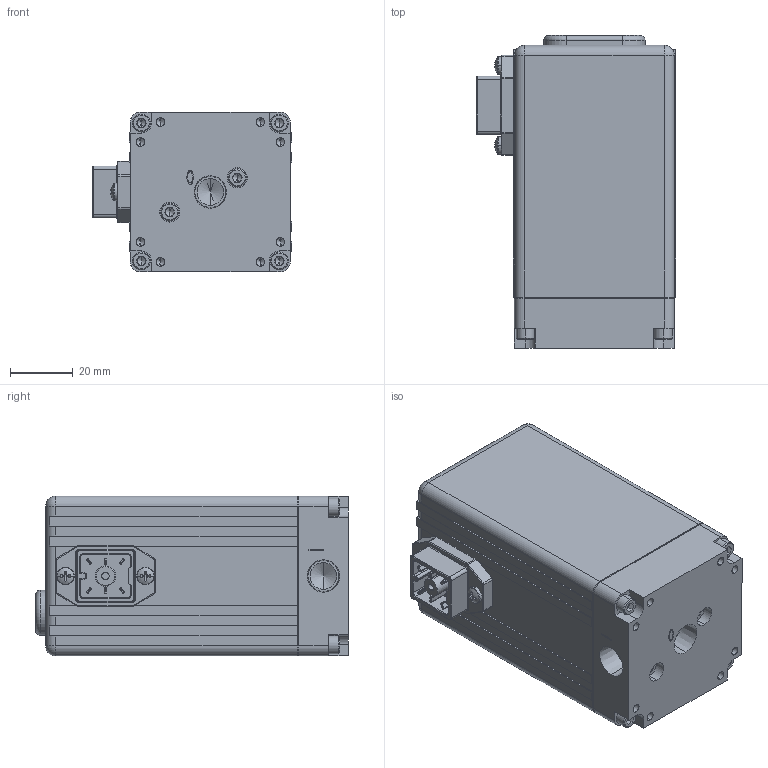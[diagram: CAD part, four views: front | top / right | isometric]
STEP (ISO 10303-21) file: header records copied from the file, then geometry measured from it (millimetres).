
FILE_DESCRIPTION (( 'STEP AP214' ), '1' );
FILE_NAME ('QB1XEMAIL-A.STEP', '2015-12-09T14:07:49', ( '' ), ( '' ), 'SwSTEP 2.0', 'SolidWorks 2016', '' );
FILE_SCHEMA (( 'AUTOMOTIVE_DESIGN' ));
Length unit declared in the file: inch
Products named in the file (9): H1368; socket head cap screw_ai_HX-SHCS 0.138-40x0.4375x0.4375-N; socket head cap screw_ai_HX-SHCS 0.138-32x0.5x0.5-N; pan cross head_ai_CR-PHMS 0.112-40x0.3125x0.3125-N; 6PINHRSCH; H3053-B; M3050-C; M37002-EMAIL; QB1XEMAIL-A
Assembly tree (13 placements, depth 2):
  QB1XEMAIL-A
    M37002-EMAIL
    M3050-C
    H3053-B
    6PINHRSCH
    pan cross head_ai_CR-PHMS 0.112-40x0.3125x0.3125-N  x2
    socket head cap screw_ai_HX-SHCS 0.138-32x0.5x0.5-N  x4
    socket head cap screw_ai_HX-SHCS 0.138-40x0.4375x0.4375-N  x2
    H1368
Bounding box: 63.25 x 99.44 x 50.81 mm (x, y, z)
Volume: 84771.9 mm3; surface area: 54875.3 mm2
Topology: 13 solids, 13 shells, 775 faces, 1890 edges, 1127 vertices
Faces by surface type: plane 343, cylinder 263, cone 82, torus 42, sphere 29, bspline 16
Entity records: 21429 total; most frequent: CARTESIAN_POINT 4397, DIRECTION 3372, ORIENTED_EDGE 3090, EDGE_CURVE 1545, AXIS2_PLACEMENT_3D 1224, VERTEX_POINT 965, LINE 924, VECTOR 924
